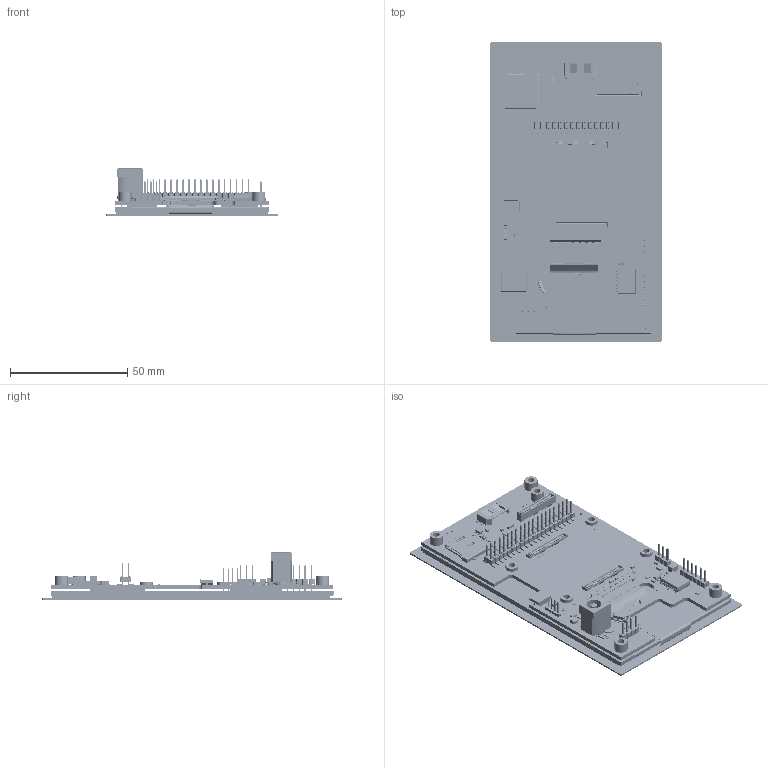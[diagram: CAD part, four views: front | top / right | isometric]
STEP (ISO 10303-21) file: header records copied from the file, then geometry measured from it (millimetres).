
FILE_DESCRIPTION (( 'STEP AP214' ), '1' );
FILE_NAME ('CFA050A0-PI-MBCA.STEP', '2024-04-17T19:32:47', ( '' ), ( '' ), 'SwSTEP 2.0', 'SolidWorks 2021', '' );
FILE_SCHEMA (( 'AUTOMOTIVE_DESIGN' ));
Length unit declared in the file: millimetre
Products named in the file (1): CFA050A0-PI-MBCA
Bounding box: 73.3 x 127.6 x 20.06 mm (x, y, z)
Surface area: 67592.7 mm2 (no closed solid volume)
Topology: 0 solids, 443 shells, 19458 faces, 53678 edges, 35135 vertices
Faces by surface type: plane 13950, cylinder 4895, bspline 409, sphere 143, cone 57, torus 4
Entity records: 845042 total; most frequent: CARTESIAN_POINT 142668, ORIENTED_EDGE 106580, DIRECTION 89881, EDGE_CURVE 53578, LINE 40671, VECTOR 40671, VERTEX_POINT 35099, AXIS2_PLACEMENT_3D 24605
